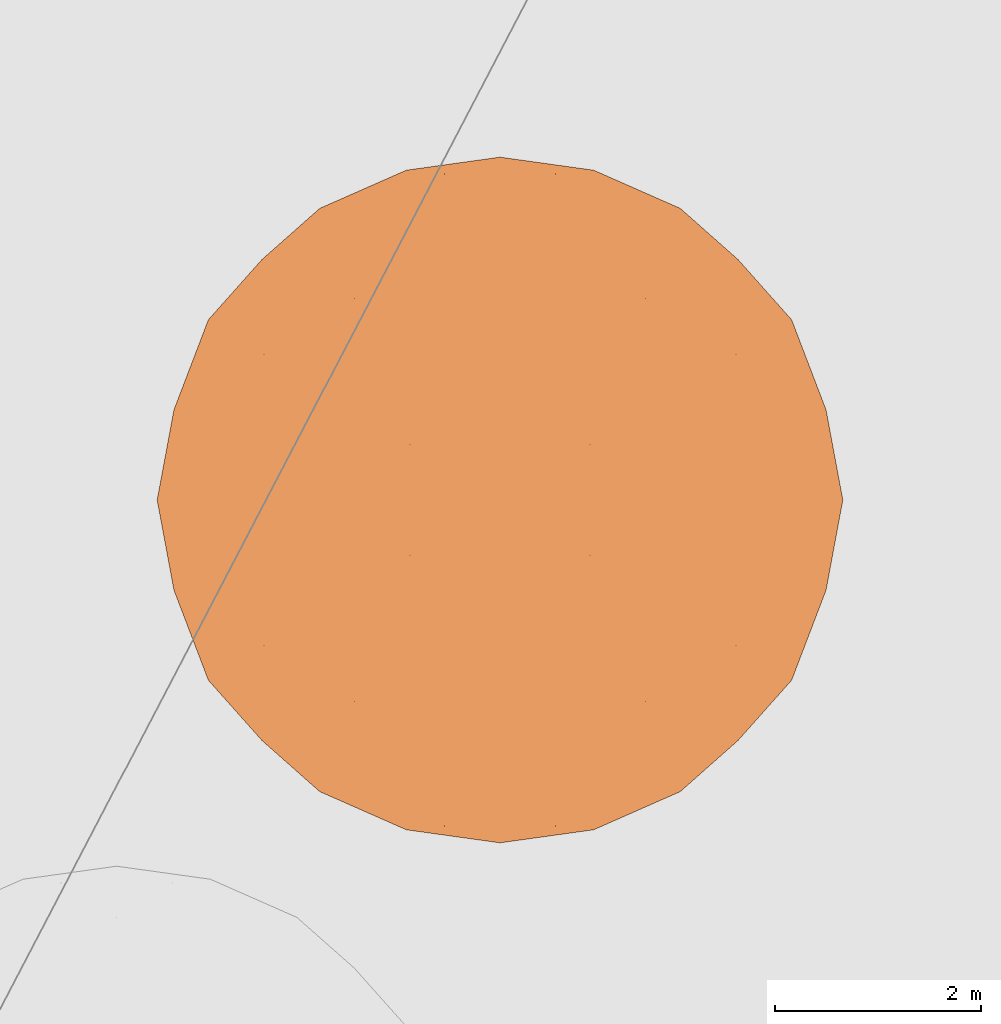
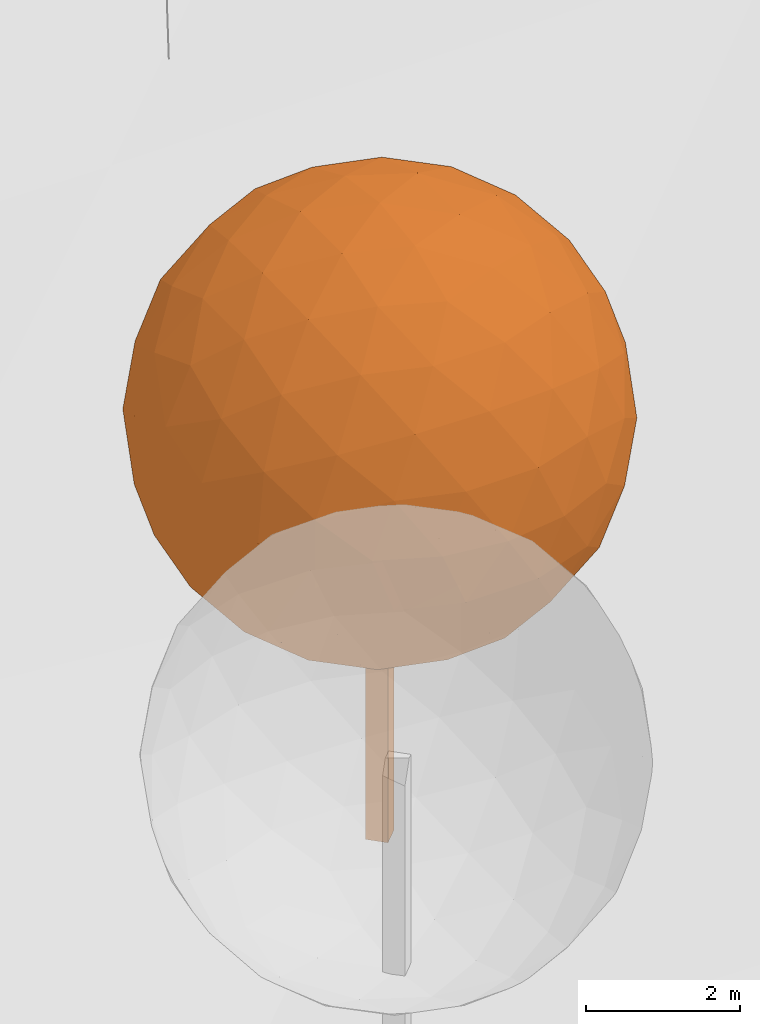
# Not in any storey, part 76 of 76: 1 proxy.
"""IFC2X3 model written with IfcOpenShell, lengths in metres."""

from ifc_helpers import new_model, si_unit, frame, origin_with_axes, place, context, subcontext, project, faceted_brep, element, save


model = new_model("IFC2X3")

# Units and contexts
model_context = context("Model", 3, precision=1e-05, world=origin_with_axes())
body_context = subcontext(model_context, "Body", "Model", "MODEL_VIEW")
ifc_project = project(units=[si_unit("AREAUNIT", "SQUARE_METRE"), si_unit("LENGTHUNIT", "METRE")], contexts=[model_context])

# Proxy
proxy_placement = place(None, frame((315.3541284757, 144.5636703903, 18.7483265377), z_axis=(0.0, 0.0, 1.0), x_axis=(1.0, 0.0, 0.0)))
element("IfcBuildingElementProxy", 1, at=proxy_placement, Name="Arbre TR2 CD66", ObjectType="NOTDEFINED", context=body_context, shape_type="Brep", body=[
    faceted_brep([(0.0, 0.2122065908, 0.0), (0.2122065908, 0.0, 0.0), (0.0, -0.2122065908, 0.0), (-0.2122065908, 0.0, 0.0), (0.0, -0.2122065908, 6.6666666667), (0.2122065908, 0.0, 6.6666666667), (0.0, 0.2122065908, 6.6666666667), (-0.2122065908, 0.0, 6.6666666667)], [[[0, 1, 2]], [[2, 3, 0]], [[4, 5, 6]], [[6, 7, 4]], [[4, 7, 2]], [[2, 7, 3]], [[7, 6, 3]], [[3, 6, 0]], [[5, 4, 1]], [[1, 4, 2]], [[6, 5, 0]], [[0, 5, 1]]]),
    faceted_brep([(-1.7524370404, 2.8355026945, 6.6666666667), (-2.3126015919, 2.3401548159, 7.2020734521), (-1.4462952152, 2.8755616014, 7.5329730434), (-2.6967233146, 1.6666666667, 7.6967233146), (-1.9592841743, 2.2939698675, 8.0844180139), (-1.0300566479, 2.6967233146, 8.3333333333), (-2.8755616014, 0.8663063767, 8.1129618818), (-2.2939698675, 1.4177513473, 8.625950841), (-2.8355026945, 0.0, 8.4191037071), (-2.3401548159, 0.5354067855, 8.9792682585), (-1.6666666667, 1.0300566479, 9.3633899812), (-1.4177513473, 1.9592841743, 8.9606365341), (-0.5354067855, 2.3126015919, 9.0068214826), (-0.8663063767, 1.4462952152, 9.5422282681), (0.0, 1.7524370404, 9.5021693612), (-0.9108884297, 3.2064611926, 6.6666666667), (-0.5415328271, 3.1701883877, 7.5428851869), (0.0, 3.3333333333, 6.6666666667), (0.0, 2.8355026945, 8.4191037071), (0.5354067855, 2.3126015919, 9.0068214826), (1.0300566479, 2.6967233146, 8.3333333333), (0.5415328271, 3.1701883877, 7.5428851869), (0.9108884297, 3.2064611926, 6.6666666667), (1.4462952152, 2.8755616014, 7.5329730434), (1.7524370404, 2.8355026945, 6.6666666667), (-1.4462952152, 2.8755616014, 5.80036029), (-0.5415328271, 3.1701883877, 5.7904481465), (-1.0300566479, 2.6967233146, 5.0), (0.5415328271, 3.1701883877, 5.7904481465), (1.4462952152, 2.8755616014, 5.80036029), (1.0300566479, 2.6967233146, 5.0), (0.0, 2.8355026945, 4.9142296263), (-0.5354067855, 2.3126015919, 4.3265118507), (0.5354067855, 2.3126015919, 4.3265118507), (0.0, 1.7524370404, 3.8311639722), (-2.3126015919, 2.3401548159, 6.1312598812), (-1.9592841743, 2.2939698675, 5.2489153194), (-2.6967233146, 1.6666666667, 5.6366100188), (-1.4177513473, 1.9592841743, 4.3726967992), (-0.8663063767, 1.4462952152, 3.7911050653), (-1.6666666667, 1.0300566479, 3.9699433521), (-2.2939698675, 1.4177513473, 4.7073824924), (-2.8755616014, 0.8663063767, 5.2203714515), (-2.3401548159, 0.5354067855, 4.3540650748), (-2.8355026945, 0.0, 4.9142296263), (-2.8355026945, 1.7524370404, 6.6666666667), (-3.1701883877, 0.8762185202, 6.1251338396), (-3.2064611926, 0.0, 5.755778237), (-3.3333333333, 0.0, 6.6666666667), (-3.1701883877, 0.8762185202, 7.2081994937), (-3.2064611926, 0.0, 7.5775550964), (2.3126015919, 2.3401548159, 7.2020734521), (1.9592841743, 2.2939698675, 8.0844180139), (2.6967233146, 1.6666666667, 7.6967233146), (1.4177513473, 1.9592841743, 8.9606365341), (0.8663063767, 1.4462952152, 9.5422282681), (1.6666666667, 1.0300566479, 9.3633899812), (2.2939698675, 1.4177513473, 8.625950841), (2.8755616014, 0.8663063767, 8.1129618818), (2.3401548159, 0.5354067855, 8.9792682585), (2.8355026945, 0.0, 8.4191037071), (0.0, 0.9108884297, 9.8731278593), (-0.8762185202, 0.5415328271, 9.8368550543), (0.0, 0.0, 10.0), (-1.7524370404, 0.0, 9.5021693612), (-2.3401548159, -0.5354067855, 8.9792682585), (-1.6666666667, -1.0300566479, 9.3633899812), (-0.8762185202, -0.5415328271, 9.8368550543), (0.0, -0.9108884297, 9.8731278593), (-0.8663063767, -1.4462952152, 9.5422282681), (0.0, -1.7524370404, 9.5021693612), (-2.8755616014, -0.8663063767, 8.1129618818), (-3.1701883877, -0.8762185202, 7.2081994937), (-2.6967233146, -1.6666666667, 7.6967233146), (-3.1701883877, -0.8762185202, 6.1251338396), (-2.8755616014, -0.8663063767, 5.2203714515), (-2.6967233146, -1.6666666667, 5.6366100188), (-2.8355026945, -1.7524370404, 6.6666666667), (-2.3126015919, -2.3401548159, 7.2020734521), (-2.3126015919, -2.3401548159, 6.1312598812), (-1.7524370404, -2.8355026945, 6.6666666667), (-2.3401548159, -0.5354067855, 4.3540650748), (-1.7524370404, 0.0, 3.8311639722), (-1.6666666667, -1.0300566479, 3.9699433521), (-0.8762185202, 0.5415328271, 3.496478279), (0.0, 0.9108884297, 3.4602054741), (0.0, 0.0, 3.3333333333), (-0.8762185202, -0.5415328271, 3.496478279), (-0.8663063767, -1.4462952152, 3.7911050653), (0.0, -0.9108884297, 3.4602054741), (0.0, -1.7524370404, 3.8311639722), (0.8663063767, 1.4462952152, 3.7911050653), (1.4177513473, 1.9592841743, 4.3726967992), (1.6666666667, 1.0300566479, 3.9699433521), (1.9592841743, 2.2939698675, 5.2489153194), (2.3126015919, 2.3401548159, 6.1312598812), (2.6967233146, 1.6666666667, 5.6366100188), (2.2939698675, 1.4177513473, 4.7073824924), (2.3401548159, 0.5354067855, 4.3540650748), (2.8755616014, 0.8663063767, 5.2203714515), (2.8355026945, 0.0, 4.9142296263), (1.7524370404, -2.8355026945, 6.6666666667), (2.3126015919, -2.3401548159, 7.2020734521), (1.4462952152, -2.8755616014, 7.5329730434), (2.6967233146, -1.6666666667, 7.6967233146), (1.9592841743, -2.2939698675, 8.0844180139), (1.0300566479, -2.6967233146, 8.3333333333), (2.8755616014, -0.8663063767, 8.1129618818), (2.2939698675, -1.4177513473, 8.625950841), (2.3401548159, -0.5354067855, 8.9792682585), (1.6666666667, -1.0300566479, 9.3633899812), (1.4177513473, -1.9592841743, 8.9606365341), (0.5354067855, -2.3126015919, 9.0068214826), (0.8663063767, -1.4462952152, 9.5422282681), (0.9108884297, -3.2064611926, 6.6666666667), (0.5415328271, -3.1701883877, 7.5428851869), (0.0, -3.3333333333, 6.6666666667), (0.0, -2.8355026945, 8.4191037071), (-0.5354067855, -2.3126015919, 9.0068214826), (-1.0300566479, -2.6967233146, 8.3333333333), (-0.5415328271, -3.1701883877, 7.5428851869), (-0.9108884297, -3.2064611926, 6.6666666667), (-1.4462952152, -2.8755616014, 7.5329730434), (1.4462952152, -2.8755616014, 5.80036029), (0.5415328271, -3.1701883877, 5.7904481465), (1.0300566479, -2.6967233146, 5.0), (-0.5415328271, -3.1701883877, 5.7904481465), (-1.4462952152, -2.8755616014, 5.80036029), (-1.0300566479, -2.6967233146, 5.0), (0.0, -2.8355026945, 4.9142296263), (0.5354067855, -2.3126015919, 4.3265118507), (-0.5354067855, -2.3126015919, 4.3265118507), (2.3126015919, -2.3401548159, 6.1312598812), (1.9592841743, -2.2939698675, 5.2489153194), (2.6967233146, -1.6666666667, 5.6366100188), (1.4177513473, -1.9592841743, 4.3726967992), (0.8663063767, -1.4462952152, 3.7911050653), (1.6666666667, -1.0300566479, 3.9699433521), (2.2939698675, -1.4177513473, 4.7073824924), (2.8755616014, -0.8663063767, 5.2203714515), (2.3401548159, -0.5354067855, 4.3540650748), (2.8355026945, -1.7524370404, 6.6666666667), (3.1701883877, -0.8762185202, 6.1251338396), (3.2064611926, 0.0, 5.755778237), (3.3333333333, 0.0, 6.6666666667), (3.1701883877, -0.8762185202, 7.2081994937), (3.2064611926, 0.0, 7.5775550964), (0.8762185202, -0.5415328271, 9.8368550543), (1.7524370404, 0.0, 9.5021693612), (0.8762185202, 0.5415328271, 9.8368550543), (-1.9592841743, -2.2939698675, 8.0844180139), (-1.4177513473, -1.9592841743, 8.9606365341), (-2.2939698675, -1.4177513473, 8.625950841), (-1.4177513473, -1.9592841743, 4.3726967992), (-1.9592841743, -2.2939698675, 5.2489153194), (-2.2939698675, -1.4177513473, 4.7073824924), (1.7524370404, 0.0, 3.8311639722), (0.8762185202, -0.5415328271, 3.496478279), (0.8762185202, 0.5415328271, 3.496478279), (3.1701883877, 0.8762185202, 7.2081994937), (3.1701883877, 0.8762185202, 6.1251338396), (2.8355026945, 1.7524370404, 6.6666666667)], [[[0, 1, 2]], [[1, 3, 4]], [[2, 4, 5]], [[1, 4, 2]], [[3, 6, 7]], [[6, 8, 9]], [[7, 9, 10]], [[6, 9, 7]], [[5, 11, 12]], [[11, 10, 13]], [[12, 13, 14]], [[11, 13, 12]], [[3, 7, 4]], [[7, 10, 11]], [[4, 11, 5]], [[7, 11, 4]], [[0, 2, 15]], [[2, 5, 16]], [[15, 16, 17]], [[2, 16, 15]], [[5, 12, 18]], [[12, 14, 19]], [[18, 19, 20]], [[12, 19, 18]], [[17, 21, 22]], [[21, 20, 23]], [[22, 23, 24]], [[21, 23, 22]], [[5, 18, 16]], [[18, 20, 21]], [[16, 21, 17]], [[18, 21, 16]], [[0, 15, 25]], [[15, 17, 26]], [[25, 26, 27]], [[15, 26, 25]], [[17, 22, 28]], [[22, 24, 29]], [[28, 29, 30]], [[22, 29, 28]], [[27, 31, 32]], [[31, 30, 33]], [[32, 33, 34]], [[31, 33, 32]], [[17, 28, 26]], [[28, 30, 31]], [[26, 31, 27]], [[28, 31, 26]], [[0, 25, 35]], [[25, 27, 36]], [[35, 36, 37]], [[25, 36, 35]], [[27, 32, 38]], [[32, 34, 39]], [[38, 39, 40]], [[32, 39, 38]], [[37, 41, 42]], [[41, 40, 43]], [[42, 43, 44]], [[41, 43, 42]], [[27, 38, 36]], [[38, 40, 41]], [[36, 41, 37]], [[38, 41, 36]], [[0, 35, 1]], [[35, 37, 45]], [[1, 45, 3]], [[35, 45, 1]], [[37, 42, 46]], [[42, 44, 47]], [[46, 47, 48]], [[42, 47, 46]], [[3, 49, 6]], [[49, 48, 50]], [[6, 50, 8]], [[49, 50, 6]], [[37, 46, 45]], [[46, 48, 49]], [[45, 49, 3]], [[46, 49, 45]], [[24, 23, 51]], [[23, 20, 52]], [[51, 52, 53]], [[23, 52, 51]], [[20, 19, 54]], [[19, 14, 55]], [[54, 55, 56]], [[19, 55, 54]], [[53, 57, 58]], [[57, 56, 59]], [[58, 59, 60]], [[57, 59, 58]], [[20, 54, 52]], [[54, 56, 57]], [[52, 57, 53]], [[54, 57, 52]], [[14, 13, 61]], [[13, 10, 62]], [[61, 62, 63]], [[13, 62, 61]], [[10, 9, 64]], [[9, 8, 65]], [[64, 65, 66]], [[9, 65, 64]], [[63, 67, 68]], [[67, 66, 69]], [[68, 69, 70]], [[67, 69, 68]], [[10, 64, 62]], [[64, 66, 67]], [[62, 67, 63]], [[64, 67, 62]], [[8, 50, 71]], [[50, 48, 72]], [[71, 72, 73]], [[50, 72, 71]], [[48, 47, 74]], [[47, 44, 75]], [[74, 75, 76]], [[47, 75, 74]], [[73, 77, 78]], [[77, 76, 79]], [[78, 79, 80]], [[77, 79, 78]], [[48, 74, 72]], [[74, 76, 77]], [[72, 77, 73]], [[74, 77, 72]], [[44, 43, 81]], [[43, 40, 82]], [[81, 82, 83]], [[43, 82, 81]], [[40, 39, 84]], [[39, 34, 85]], [[84, 85, 86]], [[39, 85, 84]], [[83, 87, 88]], [[87, 86, 89]], [[88, 89, 90]], [[87, 89, 88]], [[40, 84, 82]], [[84, 86, 87]], [[82, 87, 83]], [[84, 87, 82]], [[34, 33, 91]], [[33, 30, 92]], [[91, 92, 93]], [[33, 92, 91]], [[30, 29, 94]], [[29, 24, 95]], [[94, 95, 96]], [[29, 95, 94]], [[93, 97, 98]], [[97, 96, 99]], [[98, 99, 100]], [[97, 99, 98]], [[30, 94, 92]], [[94, 96, 97]], [[92, 97, 93]], [[94, 97, 92]], [[101, 102, 103]], [[102, 104, 105]], [[103, 105, 106]], [[102, 105, 103]], [[104, 107, 108]], [[107, 60, 109]], [[108, 109, 110]], [[107, 109, 108]], [[106, 111, 112]], [[111, 110, 113]], [[112, 113, 70]], [[111, 113, 112]], [[104, 108, 105]], [[108, 110, 111]], [[105, 111, 106]], [[108, 111, 105]], [[101, 103, 114]], [[103, 106, 115]], [[114, 115, 116]], [[103, 115, 114]], [[106, 112, 117]], [[112, 70, 118]], [[117, 118, 119]], [[112, 118, 117]], [[116, 120, 121]], [[120, 119, 122]], [[121, 122, 80]], [[120, 122, 121]], [[106, 117, 115]], [[117, 119, 120]], [[115, 120, 116]], [[117, 120, 115]], [[101, 114, 123]], [[114, 116, 124]], [[123, 124, 125]], [[114, 124, 123]], [[116, 121, 126]], [[121, 80, 127]], [[126, 127, 128]], [[121, 127, 126]], [[125, 129, 130]], [[129, 128, 131]], [[130, 131, 90]], [[129, 131, 130]], [[116, 126, 124]], [[126, 128, 129]], [[124, 129, 125]], [[126, 129, 124]], [[101, 123, 132]], [[123, 125, 133]], [[132, 133, 134]], [[123, 133, 132]], [[125, 130, 135]], [[130, 90, 136]], [[135, 136, 137]], [[130, 136, 135]], [[134, 138, 139]], [[138, 137, 140]], [[139, 140, 100]], [[138, 140, 139]], [[125, 135, 133]], [[135, 137, 138]], [[133, 138, 134]], [[135, 138, 133]], [[101, 132, 102]], [[132, 134, 141]], [[102, 141, 104]], [[132, 141, 102]], [[134, 139, 142]], [[139, 100, 143]], [[142, 143, 144]], [[139, 143, 142]], [[104, 145, 107]], [[145, 144, 146]], [[107, 146, 60]], [[145, 146, 107]], [[134, 142, 141]], [[142, 144, 145]], [[141, 145, 104]], [[142, 145, 141]], [[70, 113, 68]], [[113, 110, 147]], [[68, 147, 63]], [[113, 147, 68]], [[110, 109, 148]], [[109, 60, 59]], [[148, 59, 56]], [[109, 59, 148]], [[63, 149, 61]], [[149, 56, 55]], [[61, 55, 14]], [[149, 55, 61]], [[110, 148, 147]], [[148, 56, 149]], [[147, 149, 63]], [[148, 149, 147]], [[80, 122, 78]], [[122, 119, 150]], [[78, 150, 73]], [[122, 150, 78]], [[119, 118, 151]], [[118, 70, 69]], [[151, 69, 66]], [[118, 69, 151]], [[73, 152, 71]], [[152, 66, 65]], [[71, 65, 8]], [[152, 65, 71]], [[119, 151, 150]], [[151, 66, 152]], [[150, 152, 73]], [[151, 152, 150]], [[90, 131, 88]], [[131, 128, 153]], [[88, 153, 83]], [[131, 153, 88]], [[128, 127, 154]], [[127, 80, 79]], [[154, 79, 76]], [[127, 79, 154]], [[83, 155, 81]], [[155, 76, 75]], [[81, 75, 44]], [[155, 75, 81]], [[128, 154, 153]], [[154, 76, 155]], [[153, 155, 83]], [[154, 155, 153]], [[100, 140, 98]], [[140, 137, 156]], [[98, 156, 93]], [[140, 156, 98]], [[137, 136, 157]], [[136, 90, 89]], [[157, 89, 86]], [[136, 89, 157]], [[93, 158, 91]], [[158, 86, 85]], [[91, 85, 34]], [[158, 85, 91]], [[137, 157, 156]], [[157, 86, 158]], [[156, 158, 93]], [[157, 158, 156]], [[60, 146, 58]], [[146, 144, 159]], [[58, 159, 53]], [[146, 159, 58]], [[144, 143, 160]], [[143, 100, 99]], [[160, 99, 96]], [[143, 99, 160]], [[53, 161, 51]], [[161, 96, 95]], [[51, 95, 24]], [[161, 95, 51]], [[144, 160, 159]], [[160, 96, 161]], [[159, 161, 53]], [[160, 161, 159]]]),
])

save(model, "model.ifc")
